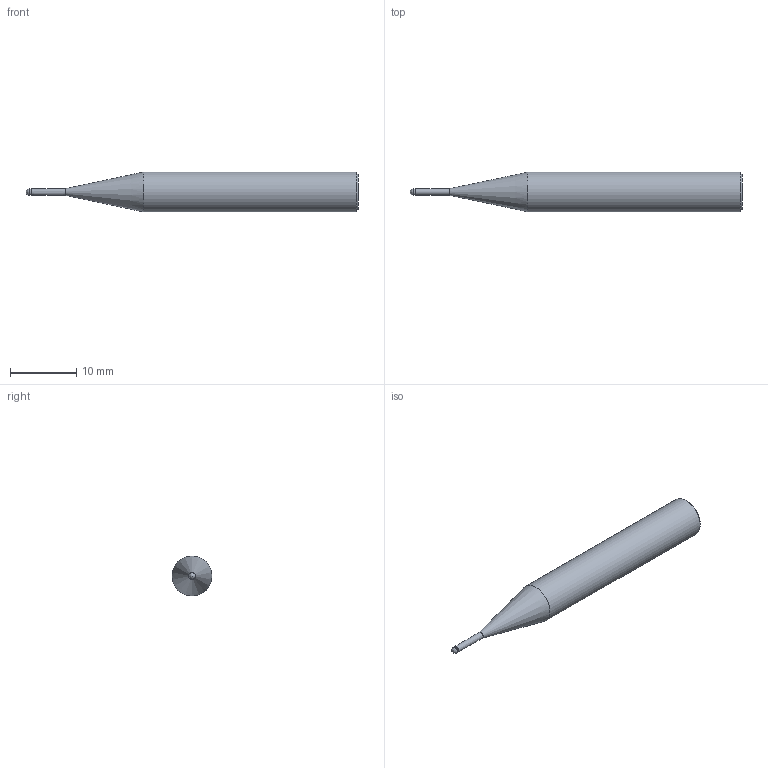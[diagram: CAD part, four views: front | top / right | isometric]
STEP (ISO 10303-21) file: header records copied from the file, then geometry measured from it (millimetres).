
FILE_DESCRIPTION(/* description */ (''),/* implementation_level */ '2;1');
FILE_NAME(/* name */ 'HGXPB2010-6-T0.4 0650.stp',/* time_stamp */ '2026-01-22T08:53:18+08:00',/* author */ (''),/* organization */ (''),/* preprocessor_version */ 'ST-DEVELOPER v16',/* originating_system */ 'SIEMENS PLM Software NX 10.0',/* authorisation */ '');
FILE_SCHEMA (('CONFIG_CONTROL_DESIGN'));
Length unit declared in the file: millimetre
Products named in the file (1): HGXPB2010-6-T0.4 0650_x_t
Bounding box: 50 x 6 x 6 mm (x, y, z)
Volume: 1049 mm3; surface area: 784.2 mm2
Topology: 1 solids, 1 shells, 9 faces, 16 edges, 9 vertices
Faces by surface type: cylinder 3, cone 3, plane 2, bspline 1
Full cylindrical faces by diameter (mm): 0.95 x1, 1 x1, 6 x1
Entity records: 285 total; most frequent: CARTESIAN_POINT 54, DIRECTION 34, AXIS2_PLACEMENT_3D 17, FACE_BOUND 16, EDGE_LOOP 16, ORIENTED_EDGE 16, ADVANCED_FACE 9, VERTEX_POINT 9
